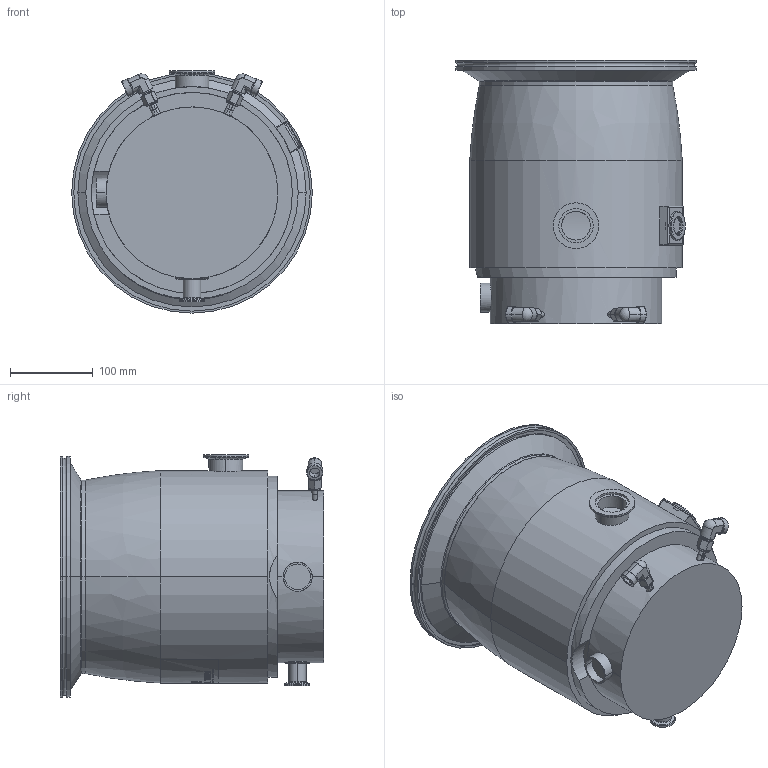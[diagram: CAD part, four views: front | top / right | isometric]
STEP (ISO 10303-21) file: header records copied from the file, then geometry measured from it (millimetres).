
FILE_DESCRIPTION((''),'2;1');
FILE_NAME('ENV-ATH1600M-P2612100','2010-10-08T',('RCRIADO'),(''),'PRO/ENGINEER BY PARAMETRIC TECHNOLOGY CORPORATION, 2010230','PRO/ENGINEER BY PARAMETRIC TECHNOLOGY CORPORATION, 2010230','');
FILE_SCHEMA(('CONFIG_CONTROL_DESIGN'));
Length unit declared in the file: millimetre
Products named in the file (1): ENV-ATH1600M-P2612100
Bounding box: 290 x 317.22 x 292 mm (x, y, z)
Volume: 14843569.6 mm3; surface area: 421679.1 mm2
Topology: 1 solids, 3 shells, 574 faces, 1432 edges, 909 vertices
Faces by surface type: plane 186, bspline 164, cylinder 160, torus 34, cone 28, sphere 2
Entity records: 24008 total; most frequent: CARTESIAN_POINT 11160, ORIENTED_EDGE 2860, DIRECTION 2296, EDGE_CURVE 1430, VERTEX_POINT 909, AXIS2_PLACEMENT_3D 847, EDGE_LOOP 641, VECTOR 602
